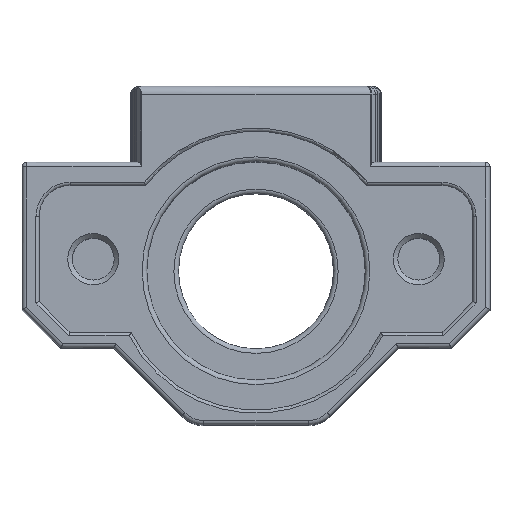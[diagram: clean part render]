
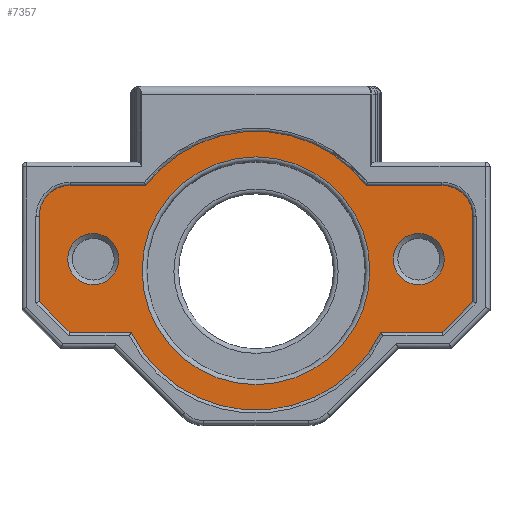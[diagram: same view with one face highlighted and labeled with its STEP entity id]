
A CAD part, top view. The second image highlights one B-rep face of the part: STEP entity #7357.
In plain terms, the highlighted planar face has unit normal (0, 0, 1).
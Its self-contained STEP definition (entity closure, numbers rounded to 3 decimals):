
#28=FACE_BOUND('',#2459,.T.);
#29=FACE_BOUND('',#2460,.T.);
#30=FACE_BOUND('',#2461,.T.);
#187=LINE('',#10531,#944);
#190=LINE('',#10539,#947);
#192=LINE('',#10543,#949);
#194=LINE('',#10547,#951);
#210=LINE('',#10591,#967);
#211=LINE('',#10593,#968);
#212=LINE('',#10595,#969);
#213=LINE('',#10598,#970);
#944=VECTOR('',#8432,10.);
#947=VECTOR('',#8441,10.);
#949=VECTOR('',#8445,10.);
#951=VECTOR('',#8449,10.);
#967=VECTOR('',#8481,10.);
#968=VECTOR('',#8482,10.);
#969=VECTOR('',#8483,10.);
#970=VECTOR('',#8486,10.);
#1673=PLANE('',#7845);
#1913=CIRCLE('',#7832,9.);
#1914=CIRCLE('',#7835,2.);
#1917=CIRCLE('',#7843,1.65);
#1919=CIRCLE('',#7846,9.);
#1920=CIRCLE('',#7847,2.);
#1921=CIRCLE('',#7848,1.65);
#1922=CIRCLE('',#7849,7.35);
#1923=CIRCLE('',#7850,7.35);
#2025=FACE_OUTER_BOUND('',#2458,.T.);
#2458=EDGE_LOOP('',(#5169,#5170,#5171,#5172,#5173,#5174,#5175,#5176,#5177,
#5178,#5179,#5180));
#2459=EDGE_LOOP('',(#5181));
#2460=EDGE_LOOP('',(#5182,#5183));
#2461=EDGE_LOOP('',(#5184));
#3221=VERTEX_POINT('',#10523);
#3222=VERTEX_POINT('',#10525);
#3223=VERTEX_POINT('',#10529);
#3224=VERTEX_POINT('',#10533);
#3225=VERTEX_POINT('',#10537);
#3226=VERTEX_POINT('',#10541);
#3227=VERTEX_POINT('',#10545);
#3244=VERTEX_POINT('',#10582);
#3246=VERTEX_POINT('',#10588);
#3247=VERTEX_POINT('',#10590);
#3248=VERTEX_POINT('',#10592);
#3249=VERTEX_POINT('',#10594);
#3250=VERTEX_POINT('',#10596);
#3251=VERTEX_POINT('',#10599);
#3252=VERTEX_POINT('',#10601);
#3253=VERTEX_POINT('',#10602);
#3963=EDGE_CURVE('',#3221,#3222,#1913,.T.);
#3966=EDGE_CURVE('',#3223,#3221,#187,.T.);
#3968=EDGE_CURVE('',#3224,#3223,#1914,.T.);
#3970=EDGE_CURVE('',#3225,#3224,#190,.T.);
#3972=EDGE_CURVE('',#3226,#3225,#192,.T.);
#3974=EDGE_CURVE('',#3227,#3226,#194,.T.);
#3991=EDGE_CURVE('',#3244,#3244,#1917,.T.);
#3994=EDGE_CURVE('',#3246,#3227,#1919,.T.);
#3995=EDGE_CURVE('',#3247,#3246,#210,.T.);
#3996=EDGE_CURVE('',#3248,#3247,#211,.T.);
#3997=EDGE_CURVE('',#3249,#3248,#212,.T.);
#3998=EDGE_CURVE('',#3250,#3249,#1920,.T.);
#3999=EDGE_CURVE('',#3222,#3250,#213,.T.);
#4000=EDGE_CURVE('',#3251,#3251,#1921,.T.);
#4001=EDGE_CURVE('',#3252,#3253,#1922,.T.);
#4002=EDGE_CURVE('',#3253,#3252,#1923,.T.);
#5169=ORIENTED_EDGE('',*,*,#3972,.F.);
#5170=ORIENTED_EDGE('',*,*,#3974,.F.);
#5171=ORIENTED_EDGE('',*,*,#3994,.F.);
#5172=ORIENTED_EDGE('',*,*,#3995,.F.);
#5173=ORIENTED_EDGE('',*,*,#3996,.F.);
#5174=ORIENTED_EDGE('',*,*,#3997,.F.);
#5175=ORIENTED_EDGE('',*,*,#3998,.F.);
#5176=ORIENTED_EDGE('',*,*,#3999,.F.);
#5177=ORIENTED_EDGE('',*,*,#3963,.F.);
#5178=ORIENTED_EDGE('',*,*,#3966,.F.);
#5179=ORIENTED_EDGE('',*,*,#3968,.F.);
#5180=ORIENTED_EDGE('',*,*,#3970,.F.);
#5181=ORIENTED_EDGE('',*,*,#4000,.F.);
#5182=ORIENTED_EDGE('',*,*,#4001,.F.);
#5183=ORIENTED_EDGE('',*,*,#4002,.F.);
#5184=ORIENTED_EDGE('',*,*,#3991,.F.);
#7357=ADVANCED_FACE('',(#2025,#28,#29,#30),#1673,.T.);
#7832=AXIS2_PLACEMENT_3D('',#10526,#8426,#8427);
#7835=AXIS2_PLACEMENT_3D('',#10535,#8436,#8437);
#7843=AXIS2_PLACEMENT_3D('',#10583,#8472,#8473);
#7845=AXIS2_PLACEMENT_3D('',#10587,#8477,#8478);
#7846=AXIS2_PLACEMENT_3D('',#10589,#8479,#8480);
#7847=AXIS2_PLACEMENT_3D('',#10597,#8484,#8485);
#7848=AXIS2_PLACEMENT_3D('',#10600,#8487,#8488);
#7849=AXIS2_PLACEMENT_3D('',#10603,#8489,#8490);
#7850=AXIS2_PLACEMENT_3D('',#10604,#8491,#8492);
#8426=DIRECTION('center_axis',(0.,0.,-1.));
#8427=DIRECTION('ref_axis',(-0.792,-0.611,0.));
#8432=DIRECTION('',(1.,0.,0.));
#8436=DIRECTION('center_axis',(0.,0.,-1.));
#8437=DIRECTION('ref_axis',(0.,-1.,0.));
#8441=DIRECTION('',(0.,1.,0.));
#8445=DIRECTION('',(-0.707,0.707,0.));
#8449=DIRECTION('',(-1.,0.,0.));
#8472=DIRECTION('center_axis',(0.,0.,1.));
#8473=DIRECTION('ref_axis',(-1.,0.,0.));
#8477=DIRECTION('center_axis',(0.,0.,1.));
#8478=DIRECTION('ref_axis',(1.,0.,0.));
#8479=DIRECTION('center_axis',(0.,0.,-1.));
#8480=DIRECTION('ref_axis',(0.896,0.444,0.));
#8481=DIRECTION('',(-1.,0.,0.));
#8482=DIRECTION('',(-0.707,-0.707,0.));
#8483=DIRECTION('',(0.,-1.,0.));
#8484=DIRECTION('center_axis',(0.,0.,-1.));
#8485=DIRECTION('ref_axis',(-1.,0.,0.));
#8486=DIRECTION('',(1.,0.,0.));
#8487=DIRECTION('center_axis',(0.,0.,1.));
#8488=DIRECTION('ref_axis',(-1.,0.,0.));
#8489=DIRECTION('center_axis',(0.,0.,1.));
#8490=DIRECTION('ref_axis',(-1.,0.,0.));
#8491=DIRECTION('center_axis',(0.,0.,1.));
#8492=DIRECTION('ref_axis',(-1.,0.,0.));
#10523=CARTESIAN_POINT('',(-22.224,-11.6,10.));
#10525=CARTESIAN_POINT('',(-7.976,-11.6,10.));
#10526=CARTESIAN_POINT('Origin',(-15.1,-17.1,10.));
#10529=CARTESIAN_POINT('',(-27.1,-11.6,10.));
#10531=CARTESIAN_POINT('',(-27.1,-11.6,10.));
#10533=CARTESIAN_POINT('',(-29.1,-13.6,10.));
#10535=CARTESIAN_POINT('Origin',(-27.1,-13.6,10.));
#10537=CARTESIAN_POINT('',(-29.1,-19.1,10.));
#10539=CARTESIAN_POINT('',(-29.1,-19.1,10.));
#10541=CARTESIAN_POINT('',(-27.1,-21.1,10.));
#10543=CARTESIAN_POINT('',(-27.1,-21.1,10.));
#10545=CARTESIAN_POINT('',(-23.162,-21.1,10.));
#10547=CARTESIAN_POINT('',(-23.162,-21.1,10.));
#10582=CARTESIAN_POINT('',(-2.95,-16.35,10.));
#10583=CARTESIAN_POINT('Origin',(-4.6,-16.35,10.));
#10587=CARTESIAN_POINT('Origin',(-15.1,-16.75,10.));
#10588=CARTESIAN_POINT('',(-7.038,-21.1,10.));
#10589=CARTESIAN_POINT('Origin',(-15.1,-17.1,10.));
#10590=CARTESIAN_POINT('',(-3.1,-21.1,10.));
#10591=CARTESIAN_POINT('',(-3.1,-21.1,10.));
#10592=CARTESIAN_POINT('',(-1.1,-19.1,10.));
#10593=CARTESIAN_POINT('',(-1.1,-19.1,10.));
#10594=CARTESIAN_POINT('',(-1.1,-13.6,10.));
#10595=CARTESIAN_POINT('',(-1.1,-13.6,10.));
#10596=CARTESIAN_POINT('',(-3.1,-11.6,10.));
#10597=CARTESIAN_POINT('Origin',(-3.1,-13.6,10.));
#10598=CARTESIAN_POINT('',(-7.976,-11.6,10.));
#10599=CARTESIAN_POINT('',(-23.95,-16.35,10.));
#10600=CARTESIAN_POINT('Origin',(-25.6,-16.35,10.));
#10601=CARTESIAN_POINT('',(-7.75,-17.1,10.));
#10602=CARTESIAN_POINT('',(-22.45,-17.1,10.));
#10603=CARTESIAN_POINT('Origin',(-15.1,-17.1,10.));
#10604=CARTESIAN_POINT('Origin',(-15.1,-17.1,10.));
